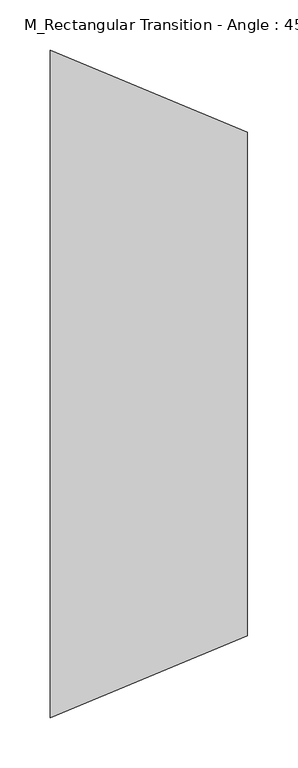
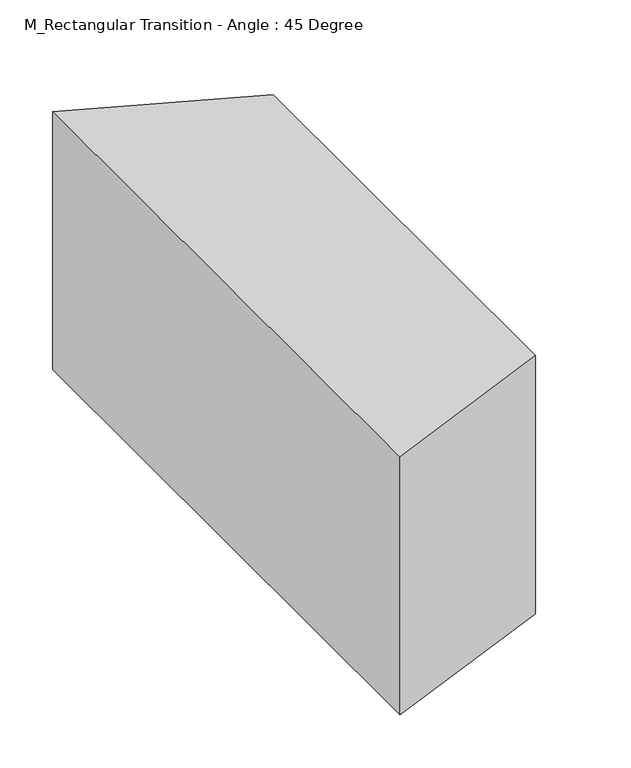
"""IFC4 building model written with IfcOpenShell, lengths in millimetres: duct fitting geometry, M_Rectangular Transition - Angle : 45 Degree."""

from ifc_helpers import new_model, si_unit, frame, origin, place, context, project, spatial, polyline, outline, extrude, source, transform, mapped, element, save


def m_rectangular_transition_angle_45_degree_0ac038db(model_context):
    return source(origin(), model_context, "Body", "SweptSolid", [
        extrude(outline(polyline([(0.0, -331.0), (0.0, 331.0), (195.5512986, 250.0), (195.5512986, -250.0), (0.0, -331.0)])), frame((0.0, 0.0, -150.0), z_axis=(0.0, 0.0, 1.0), x_axis=(1.0, 0.0, 0.0)), (0.0, 0.0, 1.0), 300.0),
    ])


if __name__ == "__main__":
    model = new_model("IFC4")
    model_context = context("Model", 3, world=origin())
    ifc_project = project(units=[si_unit("LENGTHUNIT", "METRE", prefix="MILLI")], contexts=[model_context])
    site = spatial("IfcSite", under=ifc_project)
    building = spatial("IfcBuilding", under=site)
    placement = place(None, origin())
    m_rectangular_transition_angle_45_degree_shape = m_rectangular_transition_angle_45_degree_0ac038db(model_context)
    element("IfcDuctFitting", 1, ObjectType="M_Rectangular Transition - Angle : 45 Degree", at=placement, inside=building, context=model_context, shape_type="MappedRepresentation", body=[
        mapped(m_rectangular_transition_angle_45_degree_shape, transform((0.0, 0.0, 0.0), x_axis=(1.0, 0.0, 0.0), y_axis=(0.0, 1.0, 0.0), z_axis=(0.0, 0.0, 1.0))),
    ])
    save(model, "model.ifc")
